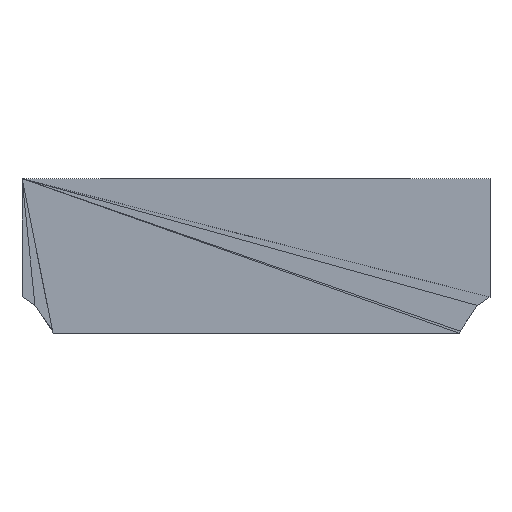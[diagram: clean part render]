
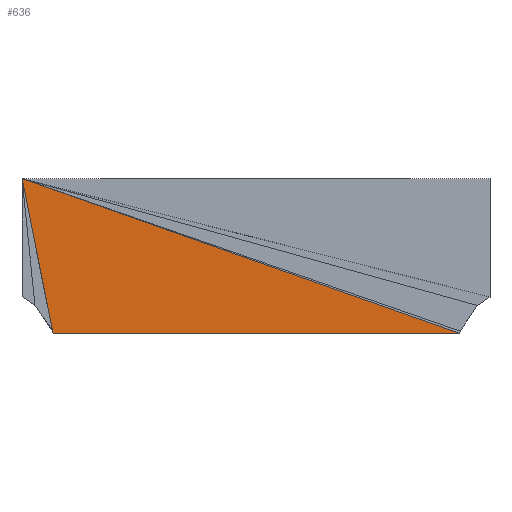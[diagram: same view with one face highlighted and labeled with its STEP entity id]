
A CAD part, front view. The second image highlights one B-rep face of the part: STEP entity #636.
In plain terms, the highlighted planar face has unit normal (0, -1, 0).
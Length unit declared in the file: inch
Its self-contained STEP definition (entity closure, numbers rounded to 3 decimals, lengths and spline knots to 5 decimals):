
#66=CARTESIAN_POINT('',(-0.059,-0.01,0.039));
#67=VERTEX_POINT('',#66);
#487=CARTESIAN_POINT('',(-0.05117,-0.01,0.));
#488=VERTEX_POINT('',#487);
#495=CARTESIAN_POINT('',(-0.05117,-0.01,0.));
#496=DIRECTION('',(-0.197,0.,0.98));
#497=VECTOR('',#496,0.03978);
#498=LINE('',#495,#497);
#499=EDGE_CURVE('',#488,#67,#498,.T.);
#509=CARTESIAN_POINT('',(0.05134,-0.01,0.));
#510=VERTEX_POINT('',#509);
#511=CARTESIAN_POINT('',(0.05134,-0.01,0.));
#512=DIRECTION('',(-0.943,0.,0.333));
#513=VECTOR('',#512,0.11703);
#514=LINE('',#511,#513);
#515=EDGE_CURVE('',#510,#67,#514,.T.);
#621=CARTESIAN_POINT('',(-0.059,-0.01,0.039));
#622=DIRECTION('',(0.,1.,0.));
#623=DIRECTION('',(1.,0.,0.));
#624=AXIS2_PLACEMENT_3D('',#621,#622,#623);
#625=PLANE('',#624);
#626=ORIENTED_EDGE('',*,*,#499,.F.);
#627=CARTESIAN_POINT('',(-0.05117,-0.01,0.));
#628=DIRECTION('',(1.,0.,-0.));
#629=VECTOR('',#628,0.10251);
#630=LINE('',#627,#629);
#631=EDGE_CURVE('',#488,#510,#630,.T.);
#632=ORIENTED_EDGE('',*,*,#631,.T.);
#633=ORIENTED_EDGE('',*,*,#515,.T.);
#634=EDGE_LOOP('',(#626,#632,#633));
#635=FACE_BOUND('',#634,.T.);
#636=ADVANCED_FACE('',(#635),#625,.F.);
